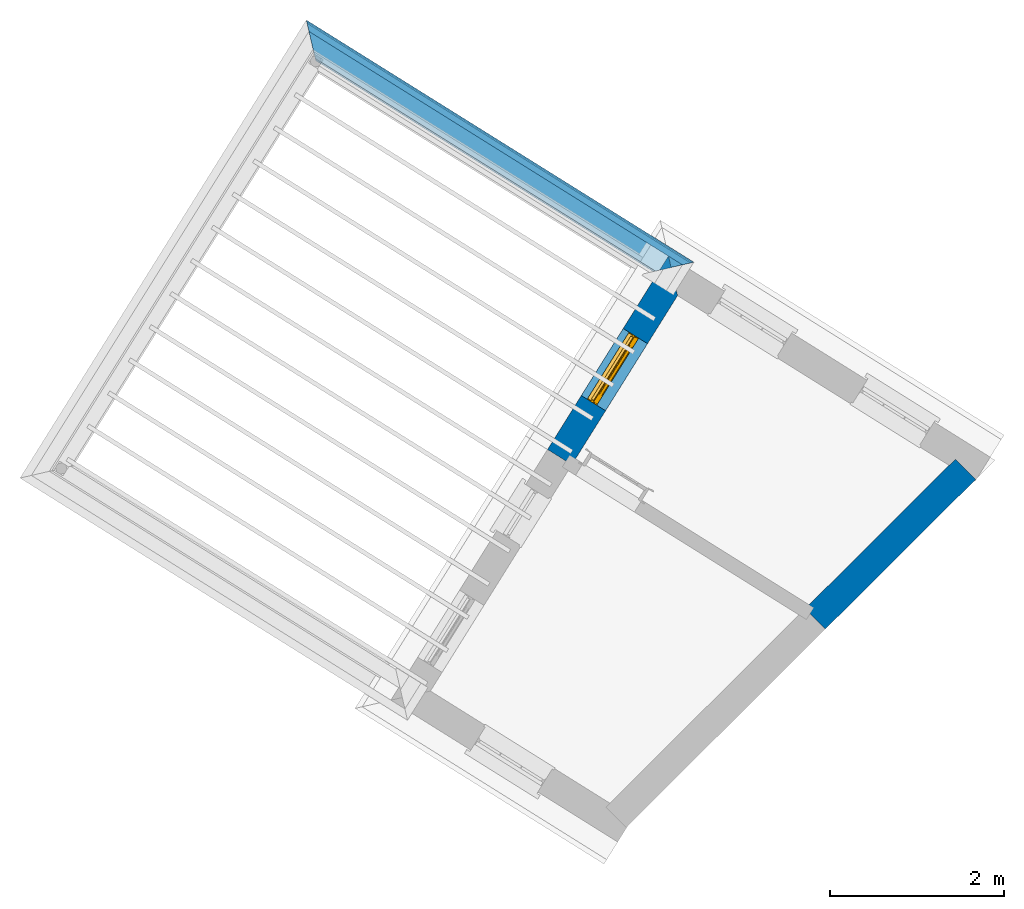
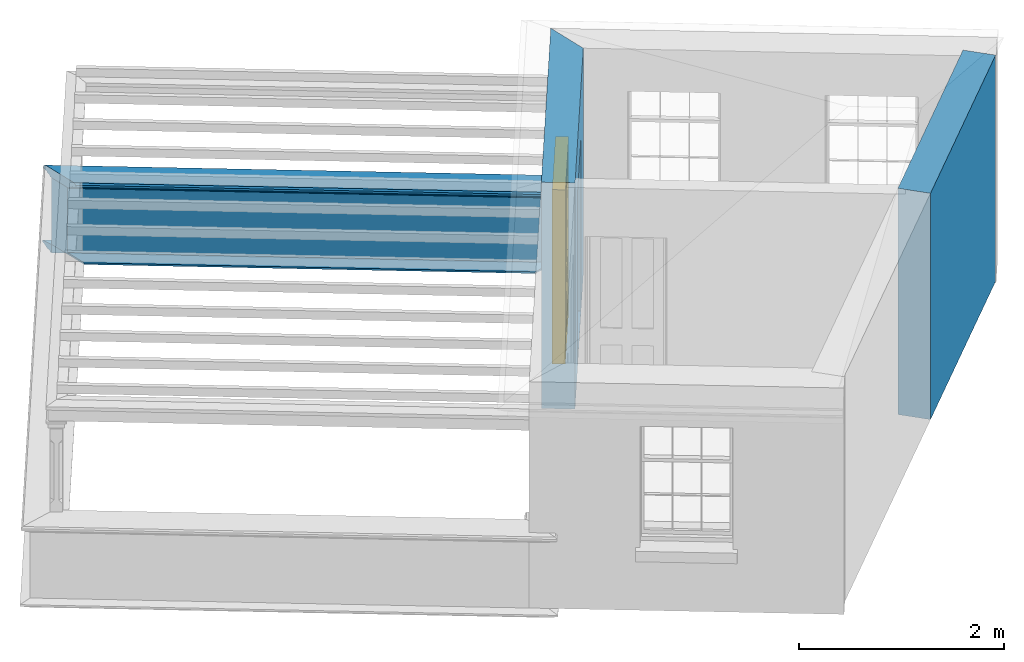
# One storey, part 5 of 6: 5 walls, 1 door, 1 opening.
"""IFC4 building model written with IfcOpenShell, lengths in metres."""

from ifc_helpers import new_model, si_unit, frame, origin, origin_with_axes, place, context, subcontext, project, spatial, polyline, outline, extrude, clip, halfspace, faceted_brep, source, transform, mapped, material, layer, layer_set, layer_usage, material_profile, profile_set, profile_usage, type_object, type_shapes, element, fill, save


model = new_model("IFC4")

# Units and contexts
model_context = context("Model", 3, world=origin_with_axes())
body_context = subcontext(model_context, "Body", "Model", "MODEL_VIEW")
ifc_project = project(units=[si_unit("PLANEANGLEUNIT", "RADIAN"), si_unit("MASSUNIT", "GRAM", prefix="KILO"), si_unit("FORCEUNIT", "NEWTON", prefix="KILO"), si_unit("LENGTHUNIT", "METRE"), si_unit("AREAUNIT", "SQUARE_METRE"), si_unit("VOLUMEUNIT", "CUBIC_METRE")], contexts=[model_context, model_context])

# Sites, building, storey
site_1_placement = place(None, origin_with_axes())
site_1 = spatial("IfcSite", under=ifc_project, at=site_1_placement, Name="Tamar")
site_2_placement = place(site_1_placement, origin_with_axes())
site_2 = spatial("IfcSite", under=site_1, at=site_2_placement, Name="Site plot-4", CompositionType="ELEMENT")
building_placement = place(None, origin_with_axes())
building = spatial("IfcBuilding", under=site_2, at=building_placement, Name="Building plot-4", CompositionType="ELEMENT")
storey_placement = place(None, frame((0.0, 0.0, 31.4), z_axis=(0.0, 0.0, 1.0), x_axis=(1.0, 0.0, 0.0)))
storey = spatial("IfcBuildingStorey", under=building, at=storey_placement, Name="plot-4 2", CompositionType="ELEMENT", Elevation=31.4)

# Wall, opening, door
ifc_material_1 = material(Name="Masonry")
ifc_layer_1 = layer(ifc_material_1, 0.33, ventilated=False)
ifc_layer_set_1 = layer_set([ifc_layer_1], Name="exterior_0.08_0.25")
ifc_layer_usage_1 = layer_usage(ifc_layer_set_1, "AXIS2", "POSITIVE", -0.25)
wall_type_1 = type_object("IfcWallType", Name="exterior_0.08_0.25", PredefinedType="SOLIDWALL", material=ifc_layer_set_1)
wall_1_placement = place(storey_placement, frame((224.898872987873, 283.58120855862, 0.0), z_axis=(0.0, 0.0, 1.0), x_axis=(-0.530026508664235, -0.847981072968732, 0.0)))
wall_1 = element("IfcWall", 1, at=wall_1_placement, inside=storey, type_object=wall_type_1, material=ifc_layer_usage_1, Name="exterior", context=body_context, shape_type="SweptSolid", body=[
    extrude(outline(polyline([(0.079999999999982, 0.0800000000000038), (-0.249999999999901, -0.249999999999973), (2.37589202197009, -0.249999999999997), (2.37589202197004, 0.0799999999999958), (0.079999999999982, 0.0800000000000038)])), origin_with_axes(), (0.0, 0.0, 1.0), 2.7),
])
opening_placement = place(wall_1_placement, frame((0.732946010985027, 0.0, 0.0199999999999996)))
opening = element("IfcOpeningElement", 2, at=opening_placement, cuts=wall_1, Name="My Opening", ObjectType="Opening", context=body_context, shape_type="SweptSolid", body=[
    extrude(outline(polyline([(0.0, -0.269999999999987), (0.910000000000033, -0.269999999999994), (0.909999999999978, 1.09999999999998), (-5.41788836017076e-14, 1.09999999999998), (0.0, -0.269999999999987)])), origin_with_axes(), (0.0, 0.0, 1.0), 2.08),
])
door_type = type_object("IfcDoorType", Name="door_panelled", OperationType="SINGLE_SWING_LEFT", PredefinedType="NOTDEFINED")
shared_shape = source(origin(), body_context, "Body", "Brep", [
    faceted_brep([(0.545, 0.195, 0.265), (0.745, 0.195, 0.265), (0.745, 0.2, 0.265), (0.545, 0.2, 0.265), (0.745, 0.2, 0.58), (0.545, 0.2, 0.58), (0.545, 0.195, 0.58), (0.515, 0.19, 0.235), (0.775, 0.19, 0.235), (0.745, 0.195, 0.58), (0.515, 0.19, 0.61), (0.515, 0.185, 0.235), (0.775, 0.185, 0.235), (0.775, 0.19, 0.61), (0.515, 0.185, 0.61), (0.785, 0.185, 0.225), (0.505, 0.185, 0.225), (0.775, 0.185, 0.61), (0.505, 0.185, 0.62), (0.785, 0.185, 0.62), (0.505, 0.18, 0.225), (0.785, 0.18, 0.225), (0.505, 0.18, 0.62), (0.785, 0.18, 0.62), (0.883, 0.18, 0.075), (0.898, 0.18, 0.075), (0.405, 0.18, 0.62), (0.405, 0.18, 0.225), (0.027, 0.18, 0.075), (0.785, 0.18, 0.82), (0.125, 0.18, 0.82), (0.405, 0.185, 0.62), (0.405, 0.185, 0.225), (0.898, 0.18, 2.068), (0.027, 0.17, 0.075), (0.883, 0.17, 0.075), (0.125, 0.18, 0.225), (0.012, 0.18, 0.075), (0.785, 0.19, 0.82), (0.125, 0.19, 0.82), (0.125, 0.18, 0.62), (0.125, 0.185, 0.62), (0.395, 0.185, 0.61), (0.395, 0.185, 0.235), (0.125, 0.185, 0.225), (0.785, 0.18, 1.895), (0.027, 0.14, 0.045), (0.883, 0.14, 0.045), (0.558333, 0.19, 0.83), (0.351667, 0.19, 0.83), (0.125, 0.18, 1.895), (0.125, 0.19, 1.895), (0.785, 0.19, 1.895), (0.012, 0.18, 2.068), (0.135, 0.185, 0.61), (0.395, 0.19, 0.61), (0.395, 0.19, 0.235), (0.135, 0.185, 0.235), (0.027, 0.14, 0.027), (0.883, 0.14, 0.027), (0.568333, 0.19, 0.83), (0.558333, 0.22, 0.83), (0.351667, 0.22, 0.83), (0.341667, 0.19, 0.83), (0.135, 0.19, 1.185), (0.135, 0.19, 1.53), (0.775, 0.19, 1.53), (0.775, 0.19, 1.185), (0.135, 0.19, 0.61), (0.365, 0.195, 0.58), (0.365, 0.195, 0.265), (0.135, 0.19, 0.235), (0.568333, 0.19, 1.175), (0.558333, 0.19, 1.175), (0.775, 0.19, 0.83), (0.558333, 0.22, 1.175), (0.785, 0.22, 0.82), (0.125, 0.22, 0.82), (0.351667, 0.22, 1.175), (0.351667, 0.19, 1.175), (0.341667, 0.19, 1.175), (0.135, 0.19, 0.83), (0.135, 0.19, 1.175), (0.135, 0.22, 1.185), (0.135, 0.22, 1.53), (0.135, 0.19, 1.54), (0.351667, 0.19, 1.885), (0.558333, 0.19, 1.885), (0.775, 0.22, 1.53), (0.775, 0.22, 1.185), (0.775, 0.19, 1.175), (0.775, 0.19, 1.54), (0.165, 0.195, 0.58), (0.365, 0.2, 0.58), (0.365, 0.2, 0.265), (0.165, 0.195, 0.265), (0.568333, 0.22, 0.83), (0.568333, 0.22, 1.175), (0.568333, 0.19, 1.185), (0.558333, 0.19, 1.185), (0.775, 0.22, 0.83), (0.785, 0.23, 0.82), (0.125, 0.23, 0.82), (0.341667, 0.22, 0.83), (0.341667, 0.22, 1.175), (0.351667, 0.19, 1.185), (0.341667, 0.19, 1.185), (0.135, 0.22, 0.83), (0.341667, 0.22, 1.185), (0.125, 0.22, 1.895), (0.341667, 0.22, 1.53), (0.341667, 0.19, 1.53), (0.135, 0.19, 1.885), (0.341667, 0.19, 1.54), (0.341667, 0.19, 1.885), (0.558333, 0.22, 1.885), (0.351667, 0.22, 1.885), (0.568333, 0.19, 1.885), (0.785, 0.22, 1.895), (0.568333, 0.22, 1.185), (0.568333, 0.19, 1.53), (0.568333, 0.22, 1.53), (0.568333, 0.19, 1.54), (0.775, 0.19, 1.885), (0.165, 0.2, 0.58), (0.165, 0.2, 0.265), (0.775, 0.22, 1.175), (0.558333, 0.19, 1.53), (0.351667, 0.22, 1.185), (0.558333, 0.22, 1.185), (0.505, 0.23, 0.62), (0.405, 0.23, 0.62), (0.125, 0.23, 1.895), (0.785, 0.23, 1.895), (0.351667, 0.19, 1.53), (0.135, 0.22, 1.175), (0.135, 0.22, 1.54), (0.341667, 0.22, 1.54), (0.135, 0.22, 1.885), (0.351667, 0.19, 1.54), (0.558333, 0.22, 1.54), (0.558333, 0.19, 1.54), (0.351667, 0.22, 1.54), (0.775, 0.22, 1.54), (0.568333, 0.22, 1.54), (0.775, 0.22, 1.885), (0.558333, 0.22, 1.53), (0.405, 0.23, 0.225), (0.505, 0.23, 0.225), (0.125, 0.23, 0.62), (0.785, 0.23, 0.62), (0.012, 0.23, 2.068), (0.898, 0.23, 2.068), (0.351667, 0.22, 1.53), (0.341667, 0.22, 1.885), (0.568333, 0.22, 1.885), (0.405, 0.225, 0.225), (0.405, 0.225, 0.62), (0.505, 0.225, 0.62), (0.505, 0.225, 0.225), (0.898, 0.23, 0.027), (0.012, 0.23, 0.027), (0.125, 0.225, 0.62), (0.785, 0.225, 0.62), (0.395, 0.225, 0.235), (0.395, 0.225, 0.61), (0.125, 0.23, 0.225), (0.125, 0.225, 0.225), (0.515, 0.225, 0.61), (0.515, 0.225, 0.235), (0.785, 0.23, 0.225), (0.785, 0.225, 0.225), (0.135, 0.225, 0.61), (0.775, 0.225, 0.61), (0.135, 0.225, 0.235), (0.395, 0.22, 0.235), (0.395, 0.22, 0.61), (0.515, 0.22, 0.61), (0.515, 0.22, 0.235), (0.775, 0.225, 0.235), (0.135, 0.22, 0.61), (0.775, 0.22, 0.61), (0.135, 0.22, 0.235), (0.365, 0.215, 0.265), (0.365, 0.215, 0.58), (0.545, 0.215, 0.58), (0.545, 0.215, 0.265), (0.775, 0.22, 0.235), (0.165, 0.215, 0.58), (0.745, 0.215, 0.58), (0.165, 0.215, 0.265), (0.365, 0.21, 0.58), (0.365, 0.21, 0.265), (0.545, 0.21, 0.58), (0.545, 0.21, 0.265), (0.745, 0.215, 0.265), (0.165, 0.21, 0.58), (0.745, 0.21, 0.58), (0.165, 0.21, 0.265), (0.745, 0.21, 0.265), (0.885, 0.178, 0.025), (0.025, 0.178, 0.025), (0.025, 0.15, 0.025), (0.885, 0.15, 0.025), (0.9, 0.23, 0.025), (0.01, 0.23, 0.025), (0.9, 0.178, 0.025), (0.91, 0.23, 0.0), (0.0, 0.23, 0.0), (0.01, 0.178, 0.025), (0.9, 0.178, 2.07), (0.9, 0.23, 2.07), (0.885, 0.178, 2.055), (0.91, 0.23, 2.08), (0.01, 0.23, 2.07), (0.0, 0.23, 2.08), (0.01, 0.178, 2.07), (0.025, 0.178, 2.055), (0.0, 0.1, 2.08), (0.91, 0.1, 2.08), (0.01, 0.1, 2.07), (0.9, 0.1, 2.07), (0.01, 0.15, 2.07), (0.9, 0.15, 2.07), (0.0, 0.1, 0.0), (0.91, 0.1, 0.0), (0.01, 0.1, 0.025), (0.9, 0.1, 0.025), (0.01, 0.15, 0.025), (0.025, 0.15, 2.055), (0.9, 0.15, 0.025), (0.885, 0.15, 2.055), (0.898, 0.18, 0.027), (0.012, 0.18, 0.027), (0.883, 0.18, 0.027), (0.027, 0.18, 0.027)], [[[0, 1, 2, 3]], [[2, 4, 5, 3]], [[0, 3, 5, 6]], [[1, 0, 7, 8]], [[9, 4, 2, 1]], [[9, 6, 5, 4]], [[0, 6, 10, 7]], [[8, 7, 11, 12]], [[8, 13, 9, 1]], [[13, 10, 6, 9]], [[7, 10, 14, 11]], [[15, 12, 11, 16]], [[12, 17, 13, 8]], [[17, 14, 10, 13]], [[18, 16, 11, 14]], [[15, 19, 17, 12]], [[15, 16, 20, 21]], [[14, 17, 19, 18]], [[16, 18, 22, 20]], [[21, 23, 19, 15]], [[24, 25, 21, 20]], [[23, 22, 18, 19]], [[20, 22, 26, 27]], [[23, 21, 25]], [[28, 24, 20, 27]], [[22, 23, 29]], [[29, 30, 26, 22]], [[27, 26, 31, 32]], [[23, 25, 33, 29]], [[34, 35, 24, 28]], [[28, 27, 36, 37]], [[38, 39, 30, 29]], [[26, 30, 40]], [[26, 40, 41, 31]], [[42, 43, 32, 31]], [[32, 44, 36, 27]], [[33, 45, 29]], [[46, 47, 35, 34]], [[36, 40, 37]], [[39, 38, 48, 49]], [[50, 30, 39, 51]], [[29, 45, 52, 38]], [[53, 37, 40, 30]], [[44, 41, 40, 36]], [[31, 41, 54, 42]], [[43, 42, 55, 56]], [[57, 44, 32, 43]], [[50, 45, 33, 53]], [[47, 46, 58, 59]], [[60, 48, 38]], [[49, 48, 61, 62]], [[49, 63, 39]], [[50, 53, 30]], [[51, 39, 64, 65]], [[45, 50, 51, 52]], [[66, 67, 38, 52]], [[57, 54, 41, 44]], [[42, 54, 68, 55]], [[56, 55, 69, 70]], [[56, 71, 57, 43]], [[60, 72, 73, 48]], [[60, 38, 74]], [[48, 73, 75, 61]], [[76, 77, 62, 61]], [[62, 78, 79, 49]], [[49, 79, 80, 63]], [[63, 81, 39]], [[82, 64, 39]], [[65, 64, 83, 84]], [[85, 51, 65]], [[52, 51, 86, 87]], [[88, 89, 67, 66]], [[90, 38, 67]], [[91, 66, 52]], [[71, 68, 54, 57]], [[55, 68, 92, 69]], [[69, 93, 94, 70]], [[70, 95, 71, 56]], [[96, 97, 72, 60]], [[73, 72, 98, 99]], [[74, 38, 90]], [[100, 96, 60, 74]], [[75, 73, 79, 78]], [[61, 75, 97, 96]], [[101, 102, 77, 76]], [[77, 103, 62]], [[96, 76, 61]], [[103, 104, 78, 62]], [[80, 79, 105, 106]], [[63, 80, 104, 103]], [[81, 63, 103, 107]], [[81, 82, 39]], [[106, 64, 82, 80]], [[106, 108, 83, 64]], [[84, 83, 77, 109]], [[110, 111, 65, 84]], [[112, 51, 85]], [[113, 85, 65, 111]], [[114, 86, 51]], [[115, 87, 86, 116]], [[117, 52, 87]], [[118, 76, 89, 88]], [[119, 98, 67, 89]], [[120, 121, 88, 66]], [[67, 98, 72, 90]], [[91, 122, 120, 66]], [[91, 52, 123]], [[95, 92, 68, 71]], [[69, 92, 124, 93]], [[94, 93, 124, 125]], [[94, 125, 95, 70]], [[72, 97, 126, 90]], [[127, 99, 98, 120]], [[99, 105, 79, 73]], [[74, 90, 126, 100]], [[96, 100, 76]], [[128, 129, 75, 78]], [[97, 75, 129, 119]], [[130, 131, 102, 101]], [[109, 77, 102, 132]], [[133, 101, 76, 118]], [[77, 107, 103]], [[78, 104, 108, 128]], [[111, 106, 105, 134]], [[104, 80, 82, 135]], [[107, 135, 82, 81]], [[110, 108, 106, 111]], [[104, 135, 83, 108]], [[83, 135, 77]], [[136, 84, 109]], [[110, 84, 136, 137]], [[114, 51, 112]], [[85, 136, 138, 112]], [[113, 137, 136, 85]], [[111, 134, 139, 113]], [[86, 114, 113, 139]], [[140, 141, 87, 115]], [[139, 142, 116, 86]], [[109, 118, 115, 116]], [[117, 123, 52]], [[117, 87, 141, 122]], [[126, 89, 76]], [[143, 118, 88]], [[120, 98, 119, 121]], [[119, 89, 126, 97]], [[144, 143, 88, 121]], [[144, 122, 91, 143]], [[127, 120, 122, 141]], [[143, 91, 123, 145]], [[124, 92, 95, 125]], [[146, 129, 99, 127]], [[99, 129, 128, 105]], [[100, 126, 76]], [[121, 119, 129, 146]], [[147, 131, 130, 148]], [[131, 149, 102]], [[130, 101, 150]], [[102, 151, 132]], [[118, 109, 132, 133]], [[101, 133, 152]], [[107, 77, 135]], [[153, 128, 108, 110]], [[134, 105, 128, 153]], [[109, 138, 136]], [[153, 110, 137, 142]], [[154, 114, 112, 138]], [[137, 113, 114, 154]], [[141, 139, 134, 127]], [[141, 140, 142, 139]], [[144, 140, 115, 155]], [[142, 137, 154, 116]], [[155, 115, 118]], [[116, 154, 109]], [[117, 155, 145, 123]], [[122, 144, 155, 117]], [[143, 145, 118]], [[121, 146, 140, 144]], [[146, 127, 134, 153]], [[156, 157, 131, 147]], [[148, 130, 158, 159]], [[148, 160, 161, 147]], [[157, 162, 149, 131]], [[161, 151, 102, 149]], [[101, 152, 160, 150]], [[163, 158, 130, 150]], [[151, 152, 133, 132]], [[154, 138, 109]], [[142, 140, 146, 153]], [[145, 155, 118]], [[157, 156, 164, 165]], [[147, 166, 167, 156]], [[168, 169, 159, 158]], [[170, 148, 159, 171]], [[148, 170, 160]], [[166, 147, 161]], [[172, 162, 157, 165]], [[166, 149, 162, 167]], [[166, 161, 149]], [[150, 160, 170]], [[163, 173, 168, 158]], [[171, 163, 150, 170]], [[174, 164, 156, 167]], [[175, 176, 165, 164]], [[169, 168, 177, 178]], [[171, 159, 169, 179]], [[167, 162, 172, 174]], [[176, 180, 172, 165]], [[179, 173, 163, 171]], [[181, 177, 168, 173]], [[164, 174, 182, 175]], [[183, 184, 176, 175]], [[178, 177, 185, 186]], [[179, 169, 178, 187]], [[174, 172, 180, 182]], [[184, 188, 180, 176]], [[187, 181, 173, 179]], [[189, 185, 177, 181]], [[175, 182, 190, 183]], [[191, 184, 183, 192]], [[185, 193, 194, 186]], [[187, 178, 186, 195]], [[182, 180, 188, 190]], [[191, 196, 188, 184]], [[195, 189, 181, 187]], [[197, 193, 185, 189]], [[183, 190, 198, 192]], [[198, 196, 191, 192]], [[194, 193, 197, 199]], [[195, 186, 194, 199]], [[188, 196, 198, 190]], [[197, 189, 195, 199]], [[200, 201, 202, 203]], [[201, 200, 204, 205]], [[206, 204, 200]], [[204, 207, 208, 205]], [[209, 201, 205]], [[210, 211, 204, 206]], [[206, 200, 212, 210]], [[211, 213, 207, 204]], [[214, 205, 208, 215]], [[216, 217, 201, 209]], [[205, 214, 216, 209]], [[216, 214, 211, 210]], [[210, 212, 217, 216]], [[214, 215, 213, 211]], [[218, 219, 213, 215]], [[219, 218, 220, 221]], [[221, 220, 222, 223]], [[215, 208, 224, 218]], [[225, 224, 208, 207]], [[224, 226, 220, 218]], [[224, 225, 227, 226]], [[219, 225, 207, 213]], [[228, 222, 220, 226]], [[219, 221, 227, 225]], [[226, 227, 203, 202]], [[202, 229, 222, 228]], [[228, 226, 202]], [[227, 221, 223, 230]], [[230, 203, 227]], [[217, 229, 202, 201]], [[231, 223, 222, 229]], [[230, 223, 231, 203]], [[231, 229, 217, 212]], [[212, 200, 203, 231]], [[33, 152, 151, 53]], [[25, 160, 152, 33]], [[161, 37, 53, 151]], [[232, 160, 25]], [[161, 233, 37]], [[160, 232, 234]], [[24, 234, 232, 25]], [[233, 161, 235]], [[37, 233, 235, 28]], [[161, 160, 234, 235]], [[35, 47, 234, 24]], [[28, 235, 46, 34]], [[58, 235, 234, 59]], [[59, 234, 47]], [[58, 46, 235]]]),
])
type_shapes(door_type, [shared_shape])
door_placement = place(storey_placement, frame((224.28143728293, 283.102791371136, 0.0199999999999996), z_axis=(0.0, 0.0, 1.0), x_axis=(-0.482324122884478, -0.77166277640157, 0.0)))
door = element("IfcDoor", 3, at=door_placement, inside=storey, type_object=door_type, Name="circulation outside door", OverallHeight=2.08, OverallWidth=0.91, context=body_context, shape_type="MappedRepresentation", body=[
    mapped(shared_shape, transform((0.0, 0.0, 0.0), scale=1.0)),
])
fill(opening, door)

# Walls
ifc_material_2 = material(Name="Masonry")
ifc_layer_2 = layer(ifc_material_2, 0.33, ventilated=False)
ifc_layer_set_2 = layer_set([ifc_layer_2], Name="party_0.08_0.25")
ifc_layer_usage_2 = layer_usage(ifc_layer_set_2, "AXIS2", "POSITIVE", -0.25)
wall_type_2 = type_object("IfcWallType", Name="party_0.08_0.25", PredefinedType="SOLIDWALL", material=ifc_layer_set_2)
wall_2_placement = place(storey_placement, frame((226.449789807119, 279.809993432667, 0.0), z_axis=(0.0, 0.0, 1.0), x_axis=(0.708567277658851, 0.705643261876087, 0.0)))
element("IfcWall", 4, at=wall_2_placement, inside=storey, type_object=wall_type_2, material=ifc_layer_usage_2, Name="party", context=body_context, shape_type="SweptSolid", body=[
    extrude(outline(polyline([(9.02879133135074e-15, 0.0800000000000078), (1.19502055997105e-14, -0.250000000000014), (2.4394855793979, -0.249999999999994), (2.43948557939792, 0.0800000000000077), (9.02879133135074e-15, 0.0800000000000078)])), origin_with_axes(), (0.0, 0.0, 1.0), 2.7),
])
ifc_material_profile_1 = material_profile(None, outline(polyline([(0.25, 0.0), (0.25, 0.795), (0.09, 0.795), (0.09, 0.02), (-0.08, 0.02), (-0.08, 0.0), (0.25, 0.0)])))
ifc_profile_set_1 = profile_set([ifc_material_profile_1])
ifc_profile_usage_1 = profile_usage(ifc_profile_set_1)
wall_type_3 = type_object("IfcWallType", Name="parapet_0", PredefinedType="PARAPET", material=ifc_profile_set_1)
wall_3_placement = place(storey_placement, frame((219.912326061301, 286.698025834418, 0.0), z_axis=(0.847981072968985, -0.530026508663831, 0.0), x_axis=(0.530026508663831, 0.847981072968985, 0.0)))
element("IfcWall", 5, at=wall_3_placement, inside=storey, type_object=wall_type_3, material=ifc_profile_usage_1, Name="parapet_0", context=body_context, shape_type="Clipping", body=[
    clip(clip(extrude(outline(polyline([(0.25, 0.0), (0.25, 0.795), (0.09, 0.795), (0.09, 0.02), (-0.08, 0.02), (-0.08, 0.0), (0.25, 0.0)])), origin_with_axes(), (0.0, 0.0, 1.0), 6.57049319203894), halfspace(frame((0.0, 0.0, 5.57049319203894), z_axis=(0.707106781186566, 0.0, -0.707106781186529), x_axis=(0.0, 1.0, 0.0)), True)), halfspace(frame((0.0, 0.0, 1.0), z_axis=(-0.707106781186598, 0.0, -0.707106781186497), x_axis=(0.0, 1.0, 0.0)), False)),
])
ifc_material_profile_2 = material_profile(None, outline(polyline([(0.265, 0.795), (0.268, 0.807), (0.274, 0.816), (0.283, 0.822), (0.295, 0.825), (0.295, 0.84), (0.305, 0.84), (0.317, 0.842), (0.326, 0.849), (0.333, 0.858), (0.335, 0.87), (0.333, 0.882), (0.326, 0.891), (0.317, 0.898), (0.305, 0.9), (0.035, 0.9), (0.023, 0.898), (0.014, 0.891), (0.007, 0.882), (0.005, 0.87), (0.007, 0.858), (0.014, 0.849), (0.023, 0.842), (0.035, 0.84), (0.045, 0.84), (0.045, 0.825), (0.057, 0.822), (0.066, 0.816), (0.072, 0.807), (0.075, 0.795), (0.265, 0.795)])))
ifc_profile_set_2 = profile_set([ifc_material_profile_2])
ifc_profile_usage_2 = profile_usage(ifc_profile_set_2)
wall_type_4 = type_object("IfcWallType", Name="parapet_1", PredefinedType="PARAPET", material=ifc_profile_set_2)
wall_4_placement = place(storey_placement, frame((219.912326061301, 286.698025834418, 0.0), z_axis=(0.847981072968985, -0.530026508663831, 0.0), x_axis=(0.530026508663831, 0.847981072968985, 0.0)))
element("IfcWall", 6, at=wall_4_placement, inside=storey, type_object=wall_type_4, material=ifc_profile_usage_2, Name="parapet_1", context=body_context, shape_type="Clipping", body=[
    clip(clip(extrude(outline(polyline([(0.265, 0.795), (0.268, 0.807), (0.274, 0.816), (0.283, 0.822), (0.295, 0.825), (0.295, 0.84), (0.305, 0.84), (0.317, 0.842), (0.326, 0.849), (0.333, 0.858), (0.335, 0.87), (0.333, 0.882), (0.326, 0.891), (0.317, 0.898), (0.305, 0.9), (0.035, 0.9), (0.023, 0.898), (0.014, 0.891), (0.007, 0.882), (0.005, 0.87), (0.007, 0.858), (0.014, 0.849), (0.023, 0.842), (0.035, 0.84), (0.045, 0.84), (0.045, 0.825), (0.057, 0.822), (0.066, 0.816), (0.072, 0.807), (0.075, 0.795), (0.265, 0.795)])), origin_with_axes(), (0.0, 0.0, 1.0), 6.57049319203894), halfspace(frame((0.0, 0.0, 5.57049319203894), z_axis=(0.707106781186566, 0.0, -0.707106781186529), x_axis=(0.0, 1.0, 0.0)), True)), halfspace(frame((0.0, 0.0, 1.0), z_axis=(-0.707106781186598, 0.0, -0.707106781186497), x_axis=(0.0, 1.0, 0.0)), False)),
])
ifc_material_profile_3 = material_profile(None, outline(polyline([(0.25, -0.1), (0.265, -0.1), (0.265, -0.085), (0.278, -0.084), (0.289, -0.081), (0.301, -0.074), (0.309, -0.065), (0.315, -0.055), (0.324, -0.044), (0.334, -0.038), (0.345, -0.035), (0.345, -0.015), (0.25, 0.0), (0.25, -0.1)])))
ifc_profile_set_3 = profile_set([ifc_material_profile_3])
ifc_profile_usage_3 = profile_usage(ifc_profile_set_3)
wall_type_5 = type_object("IfcWallType", Name="parapet_2", PredefinedType="PARAPET", material=ifc_profile_set_3)
wall_5_placement = place(storey_placement, frame((219.912326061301, 286.698025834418, 0.0), z_axis=(0.847981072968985, -0.530026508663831, 0.0), x_axis=(0.530026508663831, 0.847981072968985, 0.0)))
element("IfcWall", 7, at=wall_5_placement, inside=storey, type_object=wall_type_5, material=ifc_profile_usage_3, Name="parapet_2", context=body_context, shape_type="Clipping", body=[
    clip(clip(extrude(outline(polyline([(0.25, -0.1), (0.265, -0.1), (0.265, -0.085), (0.278, -0.084), (0.289, -0.081), (0.301, -0.074), (0.309, -0.065), (0.315, -0.055), (0.324, -0.044), (0.334, -0.038), (0.345, -0.035), (0.345, -0.015), (0.25, 0.0), (0.25, -0.1)])), origin_with_axes(), (0.0, 0.0, 1.0), 6.57049319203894), halfspace(frame((0.0, 0.0, 5.57049319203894), z_axis=(0.707106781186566, 0.0, -0.707106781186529), x_axis=(0.0, 1.0, 0.0)), True)), halfspace(frame((0.0, 0.0, 1.0), z_axis=(-0.707106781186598, 0.0, -0.707106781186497), x_axis=(0.0, 1.0, 0.0)), False)),
])

save(model, "model.ifc")
